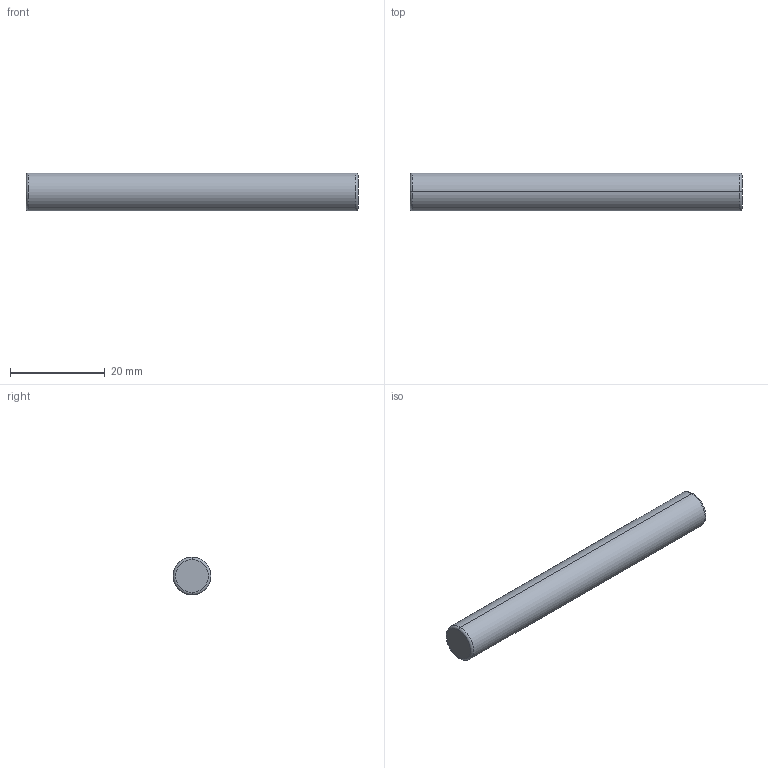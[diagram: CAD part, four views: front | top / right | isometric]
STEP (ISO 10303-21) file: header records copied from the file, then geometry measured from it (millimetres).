
FILE_DESCRIPTION (( 'STEP AP214' ), '1' );
FILE_NAME ('PASR-8x70.STEP', '2020-06-23T16:59:16', ( 'August' ), ( '' ), 'SwSTEP 2.0', 'SolidWorks 2018', '' );
FILE_SCHEMA (( 'AUTOMOTIVE_DESIGN' ));
Length unit declared in the file: millimetre
Products named in the file (1): PASR-8x70
Bounding box: 70 x 8 x 8 mm (x, y, z)
Volume: 3324.7 mm3; surface area: 2015.9 mm2
Topology: 1 solids, 1 shells, 14 faces, 26 edges, 16 vertices
Faces by surface type: cylinder 6, torus 4, plane 4
Entity records: 392 total; most frequent: DIRECTION 76, CARTESIAN_POINT 57, ORIENTED_EDGE 52, AXIS2_PLACEMENT_3D 35, EDGE_CURVE 26, CIRCLE 20, EDGE_LOOP 16, VERTEX_POINT 16
